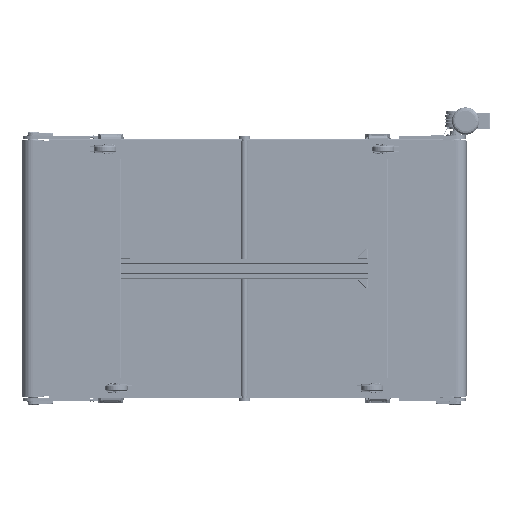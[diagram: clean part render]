
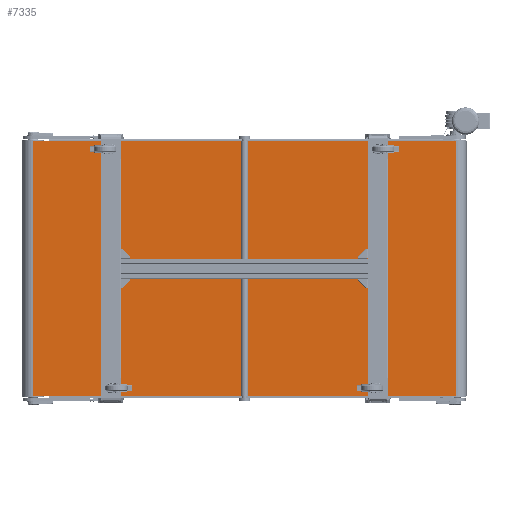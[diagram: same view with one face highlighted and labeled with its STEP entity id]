
A CAD part, front view. The second image highlights one B-rep face of the part: STEP entity #7335.
In plain terms, the highlighted planar face has unit normal (0, -1, 0).
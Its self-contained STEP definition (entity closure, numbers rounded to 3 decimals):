
#7335 = ADVANCED_FACE ( 'NONE', ( #36103 ), #233748, .F. ) ;
#36103 = FACE_OUTER_BOUND ( 'NONE', #105135, .T. ) ;
#37125 = ORIENTED_EDGE ( 'NONE', *, *, #212235, .F. ) ;
#38035 = AXIS2_PLACEMENT_3D ( 'NONE', #137456, #197292, #255841 ) ;
#38823 = CARTESIAN_POINT ( 'NONE',  ( -950., -49.5, -575. ) ) ;
#43465 = CARTESIAN_POINT ( 'NONE',  ( -950., -49.5, 575. ) ) ;
#44720 = VERTEX_POINT ( 'NONE', #215478 ) ;
#67254 = VERTEX_POINT ( 'NONE', #43465 ) ;
#95637 = VERTEX_POINT ( 'NONE', #203612 ) ;
#103319 = VECTOR ( 'NONE', #142411, 1000. ) ;
#103953 = EDGE_CURVE ( 'NONE', #67254, #149181, #121604, .T. ) ;
#105135 = EDGE_LOOP ( 'NONE', ( #255155, #195556, #37125, #133867 ) ) ;
#108600 = DIRECTION ( 'NONE',  ( 1., 0., 0. ) ) ;
#115482 = EDGE_CURVE ( 'NONE', #44720, #95637, #169368, .T. ) ;
#116865 = DIRECTION ( 'NONE',  ( 1., 0., 0. ) ) ;
#121604 = LINE ( 'NONE', #199716, #103319 ) ;
#133867 = ORIENTED_EDGE ( 'NONE', *, *, #103953, .T. ) ;
#134404 = VECTOR ( 'NONE', #116865, 1000. ) ;
#137456 = CARTESIAN_POINT ( 'NONE',  ( -950., -49.5, 575. ) ) ;
#142411 = DIRECTION ( 'NONE',  ( 0., 0., -1. ) ) ;
#149181 = VERTEX_POINT ( 'NONE', #38823 ) ;
#155609 = VECTOR ( 'NONE', #108600, 1000. ) ;
#167206 = LINE ( 'NONE', #208745, #155609 ) ;
#169368 = LINE ( 'NONE', #230436, #189421 ) ;
#184836 = EDGE_CURVE ( 'NONE', #149181, #95637, #167206, .T. ) ;
#189421 = VECTOR ( 'NONE', #248695, 1000. ) ;
#195556 = ORIENTED_EDGE ( 'NONE', *, *, #115482, .F. ) ;
#197292 = DIRECTION ( 'NONE',  ( 0., 1., 0. ) ) ;
#199716 = CARTESIAN_POINT ( 'NONE',  ( -950., -49.5, 575. ) ) ;
#203612 = CARTESIAN_POINT ( 'NONE',  ( 950., -49.5, -575. ) ) ;
#208745 = CARTESIAN_POINT ( 'NONE',  ( -950., -49.5, -575. ) ) ;
#212235 = EDGE_CURVE ( 'NONE', #67254, #44720, #248345, .T. ) ;
#215478 = CARTESIAN_POINT ( 'NONE',  ( 950., -49.5, 575. ) ) ;
#218275 = CARTESIAN_POINT ( 'NONE',  ( -950., -49.5, 575. ) ) ;
#230436 = CARTESIAN_POINT ( 'NONE',  ( 950., -49.5, 575. ) ) ;
#233748 = PLANE ( 'NONE',  #38035 ) ;
#248345 = LINE ( 'NONE', #218275, #134404 ) ;
#248695 = DIRECTION ( 'NONE',  ( 0., 0., -1. ) ) ;
#255155 = ORIENTED_EDGE ( 'NONE', *, *, #184836, .T. ) ;
#255841 = DIRECTION ( 'NONE',  ( 0., 0., 1. ) ) ;
